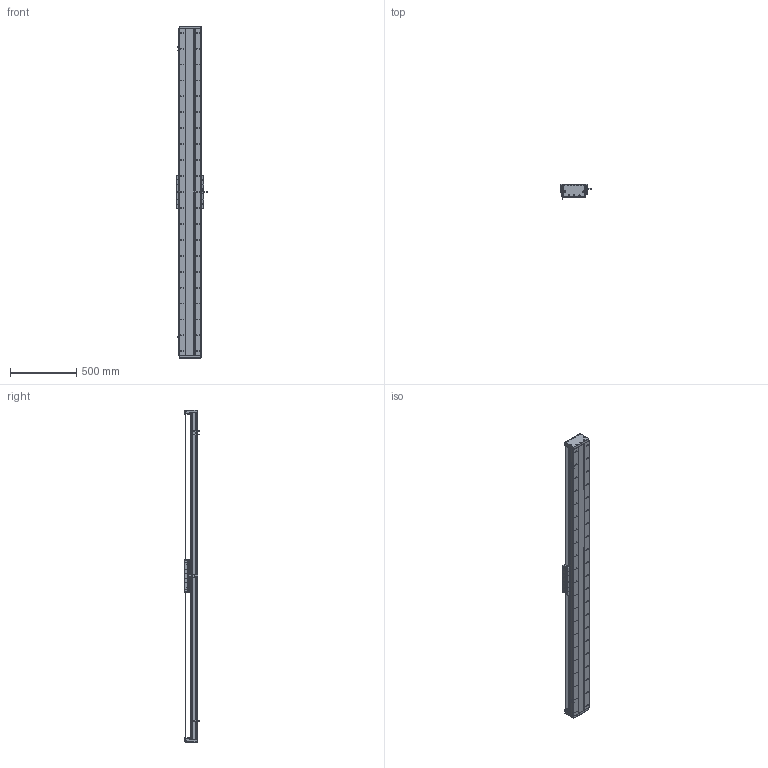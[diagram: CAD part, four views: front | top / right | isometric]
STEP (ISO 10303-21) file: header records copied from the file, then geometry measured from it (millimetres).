
FILE_DESCRIPTION (( 'STEP AP203' ), '1' );
FILE_NAME ('DA-C165-C3-T2160-C010-0.2 直线电机.STEP', '2023-06-13T08:51:42', ( '微软用户' ), ( '微软中国' ), 'SwSTEP 2.0', 'SolidWorks 2019', '' );
FILE_SCHEMA (( 'CONFIG_CONTROL_DESIGN' ));
Length unit declared in the file: millimetre
Products named in the file (18): 珨极趙賑雄怢啣C3-wf; 复件 DA165-GYP-00 光电感应片^DA-C165-C3-T-C010-0.2-N 直线电机; 葩璃 CKM01-W075-TRL^DA-C165-C3-T-C010-0.2-N 眻盄萇儂; 复件 DA165-GD-1860-002-00 钢带盖板^复件 CU165钢带组件_DA-C165-C3-T-C010-0.2-N 直线电机; 复件 XD-U-02L 磁栅尺^DA-C165-C3-T-C010-0.2-N 直线电机_T; IU-CU165-L 菁釱絳寢; 复件 六角薄螺母 M3^DA-C165-C3-T-C010-0.2-N 直线电机_GB_FASTENER_NUT_STNAB M3-C; 复件 DA165-GDLK-00 钢带拉块^复件 CU165钢带组件_DA-C165-C3-T-C010-0.2-N 直线电机; 复件 CU165钢带组件^DA-C165-C3-T-C010-0.2-N 直线电机; 葩璃 CKM03-W075-C1C2-TP-3.0^DA-C165-C3-T-C010-0.2-N 眻盄萇儂; 复件 CU165 底座^IU-CU165-L 底座导轨_L2460; 葩璃 PM-T45^DA-C165-C3-T-C010-0.2-N 眻盄萇儂; DA-C165-C3-T2160-C010-0.2 眻盄萇儂; 复件 DA95-HXJ-00 缓冲橡胶^DA-C165-C3-T-C010-0.2-N 直线电机; 复件 DA165-GDYK-00 钢带压块^复件 CU165钢带组件_DA-C165-C3-T-C010-0.2-N 直线电机; 复件 DA165-GD-DG-H-00 端盖^复件 CU165钢带组件_DA-C165-C3-T-C010-0.2-N 直线电机; 复件 DMA-010-0.2 读数头^DA-C165-C3-T-C010-0.2-N 直线电机; 葩璃 DA95-GT-T-00^IU-CU165-L 菁釱絳寢_T
Assembly tree (35 placements, depth 3):
  DA-C165-C3-T2160-C010-0.2 眻盄萇儂
    IU-CU165-L 菁釱絳寢
      复件 CU165 底座^IU-CU165-L 底座导轨_L2460
      葩璃 DA95-GT-T-00^IU-CU165-L 菁釱絳寢_T  x4
    复件 XD-U-02L 磁栅尺^DA-C165-C3-T-C010-0.2-N 直线电机_T
    葩璃 PM-T45^DA-C165-C3-T-C010-0.2-N 眻盄萇儂  x3
    葩璃 CKM01-W075-TRL^DA-C165-C3-T-C010-0.2-N 眻盄萇儂
    复件 CU165钢带组件^DA-C165-C3-T-C010-0.2-N 直线电机
      复件 DA165-GD-DG-H-00 端盖^复件 CU165钢带组件_DA-C165-C3-T-C010-0.2-N 直线电机  x2
      复件 DA165-GDYK-00 钢带压块^复件 CU165钢带组件_DA-C165-C3-T-C010-0.2-N 直线电机  x2
      复件 DA165-GD-1860-002-00 钢带盖板^复件 CU165钢带组件_DA-C165-C3-T-C010-0.2-N 直线电机
      复件 DA165-GDLK-00 钢带拉块^复件 CU165钢带组件_DA-C165-C3-T-C010-0.2-N 直线电机  x2
    复件 DA95-HXJ-00 缓冲橡胶^DA-C165-C3-T-C010-0.2-N 直线电机  x4
    复件 DA165-GYP-00 光电感应片^DA-C165-C3-T-C010-0.2-N 直线电机
    复件 DMA-010-0.2 读数头^DA-C165-C3-T-C010-0.2-N 直线电机
    葩璃 CKM03-W075-C1C2-TP-3.0^DA-C165-C3-T-C010-0.2-N 眻盄萇儂
    复件 六角薄螺母 M3^DA-C165-C3-T-C010-0.2-N 直线电机_GB_FASTENER_NUT_STNAB M3-C  x8
    珨极趙賑雄怢啣C3-wf
Bounding box: 233 x 111.45 x 2500 mm (x, y, z)
Volume: 14528612 mm3; surface area: 4287579.6 mm2
Topology: 72 solids, 122 shells, 4302 faces, 12271 edges, 7748 vertices
Faces by surface type: cylinder 2464, plane 1212, cone 576, torus 46, sphere 4
Entity records: 140917 total; most frequent: CARTESIAN_POINT 37861, ORIENTED_EDGE 21294, DIRECTION 20905, EDGE_CURVE 10647, AXIS2_PLACEMENT_3D 8028, VERTEX_POINT 6936, EDGE_LOOP 4961, VECTOR 4849
